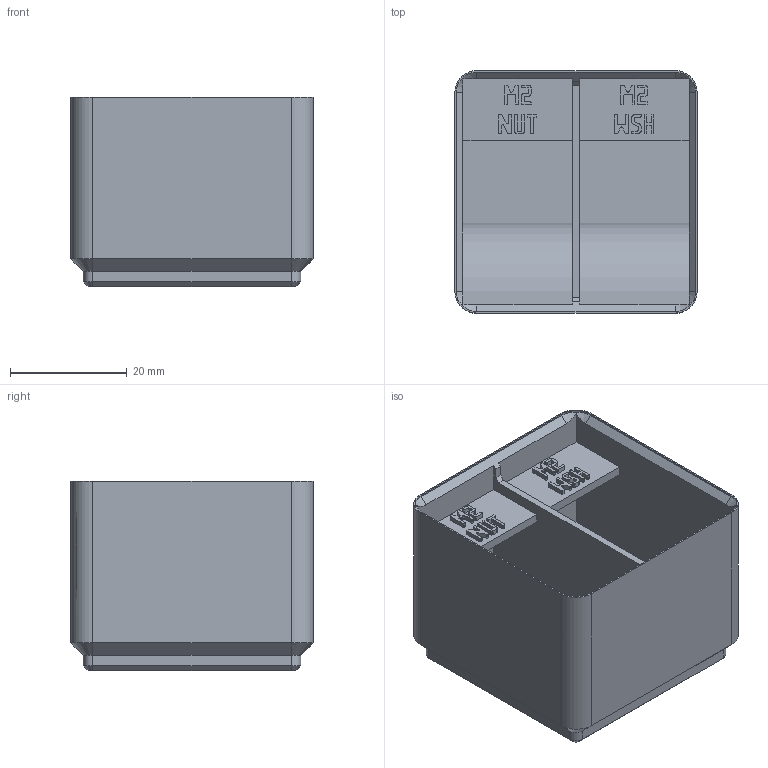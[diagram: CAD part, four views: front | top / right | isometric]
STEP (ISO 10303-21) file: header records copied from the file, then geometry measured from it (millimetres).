
FILE_DESCRIPTION(('Open CASCADE Model'),'2;1');
FILE_NAME('Open CASCADE Shape Model','2026-11-16T13:39:14',('Author'),( 'Open CASCADE'),'Open CASCADE STEP processor 8.0','build123d', 'Unknown');
FILE_SCHEMA(('AUTOMOTIVE_DESIGN { 1 0 10303 214 1 1 1 1 }'));
Products named in the file (1): SOLID
Bounding box: 41.5 x 41.5 x 32.4 mm (x, y, z)
Volume: 23918.4 mm3; surface area: 13474 mm2
Topology: 1 solids, 1 shells, 1142 faces, 3349 edges, 2222 vertices
Faces by surface type: plane 1116, cylinder 14, cone 12
Entity records: 78416 total; most frequent: CARTESIAN_POINT 15864, DIRECTION 10043, LINE 7657, VECTOR 7657, ORIENTED_EDGE 6698, PCURVE 6698, DEFINITIONAL_REPRESENTATION 6698, EDGE_CURVE 3349
